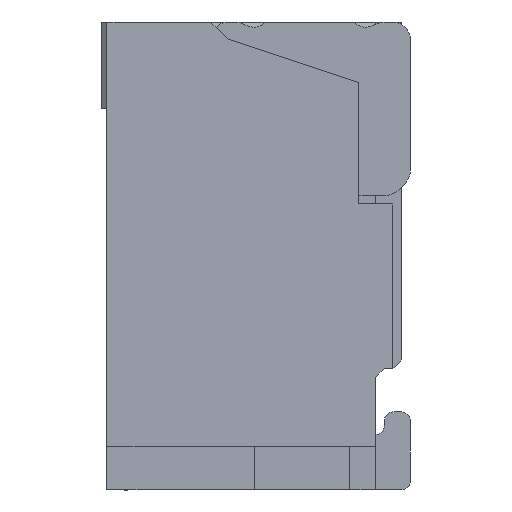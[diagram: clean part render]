
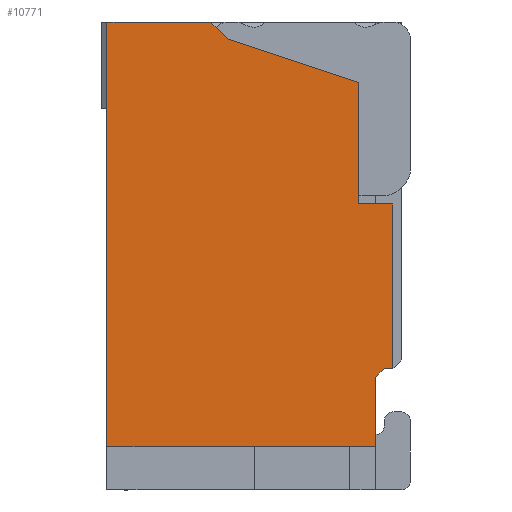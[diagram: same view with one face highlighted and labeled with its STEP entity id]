
A CAD part, left-side view. The second image highlights one B-rep face of the part: STEP entity #10771.
In plain terms, the highlighted planar face has unit normal (-1, 0, 0).
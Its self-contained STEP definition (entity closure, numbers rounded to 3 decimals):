
#417=DIRECTION('',(0.,0.,1.));
#418=VECTOR('',#417,2.45);
#419=CARTESIAN_POINT('',(-6.5,1.7,0.25));
#420=LINE('',#419,#418);
#2998=DIRECTION('',(0.,1.,0.));
#2999=VECTOR('',#2998,1.55);
#3000=CARTESIAN_POINT('',(-6.5,0.15,0.25));
#3001=LINE('',#3000,#2999);
#3646=DIRECTION('',(0.,1.,0.));
#3647=VECTOR('',#3646,0.6);
#3648=CARTESIAN_POINT('',(-6.5,1.1,2.7));
#3649=LINE('',#3648,#3647);
#3650=DIRECTION('',(0.,0.707,0.707));
#3651=VECTOR('',#3650,0.141);
#3652=CARTESIAN_POINT('',(-6.5,1.,2.6));
#3653=LINE('',#3652,#3651);
#3654=DIRECTION('',(0.,0.949,0.316));
#3655=VECTOR('',#3654,0.791);
#3656=CARTESIAN_POINT('',(-6.5,0.25,2.35));
#3657=LINE('',#3656,#3655);
#3658=DIRECTION('',(0.,0.,1.));
#3659=VECTOR('',#3658,0.7);
#3660=CARTESIAN_POINT('',(-6.5,0.25,1.65));
#3661=LINE('',#3660,#3659);
#3662=DIRECTION('',(0.,1.,0.));
#3663=VECTOR('',#3662,0.2);
#3664=CARTESIAN_POINT('',(-6.5,0.05,1.65));
#3665=LINE('',#3664,#3663);
#3666=DIRECTION('',(0.,0.,1.));
#3667=VECTOR('',#3666,0.95);
#3668=CARTESIAN_POINT('',(-6.5,0.05,0.7));
#3669=LINE('',#3668,#3667);
#3670=DIRECTION('',(0.,-1.,0.));
#3671=VECTOR('',#3670,0.05);
#3672=CARTESIAN_POINT('',(-6.5,0.1,0.7));
#3673=LINE('',#3672,#3671);
#3674=DIRECTION('',(0.,-0.707,0.707));
#3675=VECTOR('',#3674,0.071);
#3676=CARTESIAN_POINT('',(-6.5,0.15,0.65));
#3677=LINE('',#3676,#3675);
#3678=DIRECTION('',(0.,0.,1.));
#3679=VECTOR('',#3678,0.4);
#3680=CARTESIAN_POINT('',(-6.5,0.15,0.25));
#3681=LINE('',#3680,#3679);
#4831=CARTESIAN_POINT('',(-6.5,0.05,1.65));
#4832=VERTEX_POINT('',#4831);
#4833=CARTESIAN_POINT('',(-6.5,0.25,1.65));
#4834=VERTEX_POINT('',#4833);
#4859=CARTESIAN_POINT('',(-6.5,1.,2.6));
#4860=CARTESIAN_POINT('',(-6.5,1.1,2.7));
#4861=VERTEX_POINT('',#4859);
#4862=VERTEX_POINT('',#4860);
#4863=CARTESIAN_POINT('',(-6.5,0.25,2.35));
#4864=VERTEX_POINT('',#4863);
#4865=CARTESIAN_POINT('',(-6.5,0.05,0.7));
#4866=VERTEX_POINT('',#4865);
#4867=CARTESIAN_POINT('',(-6.5,0.1,0.7));
#4868=VERTEX_POINT('',#4867);
#4869=CARTESIAN_POINT('',(-6.5,0.15,0.65));
#4870=VERTEX_POINT('',#4869);
#4871=CARTESIAN_POINT('',(-6.5,0.15,0.25));
#4872=VERTEX_POINT('',#4871);
#4873=CARTESIAN_POINT('',(-6.5,1.7,0.25));
#4874=VERTEX_POINT('',#4873);
#4875=CARTESIAN_POINT('',(-6.5,1.7,2.7));
#4876=VERTEX_POINT('',#4875);
#10750=CARTESIAN_POINT('',(-6.5,0.049,2.701));
#10751=DIRECTION('',(-1.,0.,0.));
#10752=DIRECTION('',(0.,1.,0.));
#10753=AXIS2_PLACEMENT_3D('',#10750,#10751,#10752);
#10754=PLANE('',#10753);
#10755=ORIENTED_EDGE('',*,*,#6525,.F.);
#10757=ORIENTED_EDGE('',*,*,#10756,.F.);
#10759=ORIENTED_EDGE('',*,*,#10758,.F.);
#10760=ORIENTED_EDGE('',*,*,#6338,.F.);
#10761=ORIENTED_EDGE('',*,*,#6363,.F.);
#10763=ORIENTED_EDGE('',*,*,#10762,.F.);
#10764=ORIENTED_EDGE('',*,*,#10726,.F.);
#10765=ORIENTED_EDGE('',*,*,#10743,.F.);
#10766=ORIENTED_EDGE('',*,*,#6701,.F.);
#10767=ORIENTED_EDGE('',*,*,#9798,.T.);
#10768=ORIENTED_EDGE('',*,*,#6595,.T.);
#10769=EDGE_LOOP('',(#10755,#10757,#10759,#10760,#10761,#10763,#10764,#10765,
#10766,#10767,#10768));
#10770=FACE_OUTER_BOUND('',#10769,.F.);
#10771=ADVANCED_FACE('',(#10770),#10754,.T.);
#6338=EDGE_CURVE('',#4834,#4864,#3661,.T.);
#6363=EDGE_CURVE('',#4832,#4834,#3665,.T.);
#6525=EDGE_CURVE('',#4862,#4876,#3649,.T.);
#6595=EDGE_CURVE('',#4874,#4876,#420,.T.);
#6701=EDGE_CURVE('',#4872,#4870,#3681,.T.);
#9798=EDGE_CURVE('',#4872,#4874,#3001,.T.);
#10726=EDGE_CURVE('',#4868,#4866,#3673,.T.);
#10743=EDGE_CURVE('',#4870,#4868,#3677,.T.);
#10756=EDGE_CURVE('',#4861,#4862,#3653,.T.);
#10758=EDGE_CURVE('',#4864,#4861,#3657,.T.);
#10762=EDGE_CURVE('',#4866,#4832,#3669,.T.);
